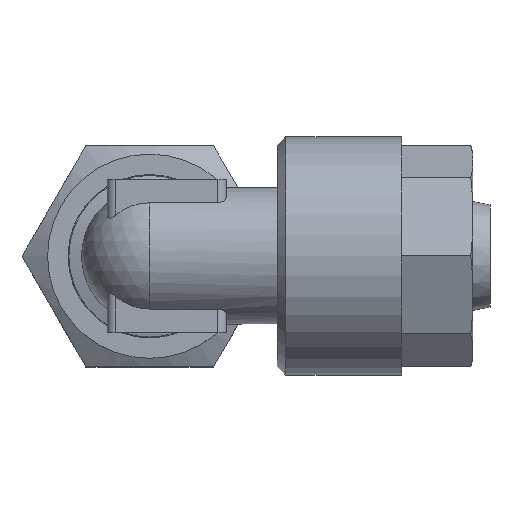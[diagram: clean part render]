
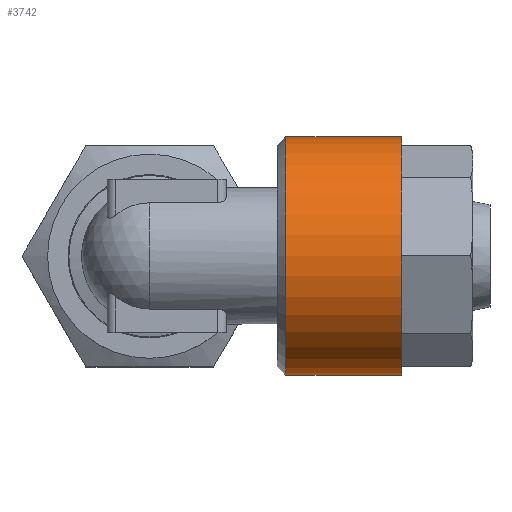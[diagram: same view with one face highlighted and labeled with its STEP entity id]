
A CAD part, top view. The second image highlights one B-rep face of the part: STEP entity #3742.
In plain terms, the highlighted cylindrical face has radius 7 mm (diameter 14 mm), a full revolution.
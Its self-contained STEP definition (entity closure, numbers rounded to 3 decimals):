
#2003=CYLINDRICAL_SURFACE('',#3569,7.);
#2196=ORIENTED_EDGE('',*,*,#2669,.F.);
#2197=ORIENTED_EDGE('',*,*,#2670,.T.);
#2425=CIRCLE('',#3568,7.);
#2426=CIRCLE('',#3570,7.);
#2519=VERTEX_POINT('',#3968);
#2520=VERTEX_POINT('',#3971);
#2669=EDGE_CURVE('',#2519,#2519,#2425,.T.);
#2670=EDGE_CURVE('',#2520,#2520,#2426,.T.);
#2831=EDGE_LOOP('',(#2196));
#2832=EDGE_LOOP('',(#2197));
#2959=FACE_BOUND('',#2831,.T.);
#2960=FACE_BOUND('',#2832,.T.);
#3242=DIRECTION('',(0.,1.,0.));
#3243=DIRECTION('',(0.,0.,-7.));
#3244=DIRECTION('',(0.,1.,0.));
#3245=DIRECTION('',(1.,0.,0.));
#3246=DIRECTION('',(0.,1.,0.));
#3247=DIRECTION('',(0.,0.,7.));
#3568=AXIS2_PLACEMENT_3D('',#3969,#3242,#3243);
#3569=AXIS2_PLACEMENT_3D('',#3970,#3244,#3245);
#3570=AXIS2_PLACEMENT_3D('',#3972,#3246,#3247);
#3742=ADVANCED_FACE('',(#2959,#2960),#2003,.T.);
#3968=CARTESIAN_POINT('',(26.989,21.895,-7.));
#3969=CARTESIAN_POINT('',(26.989,21.895,0.));
#3970=CARTESIAN_POINT('',(26.989,15.095,0.));
#3971=CARTESIAN_POINT('',(26.989,15.095,7.));
#3972=CARTESIAN_POINT('',(26.989,15.095,0.));
